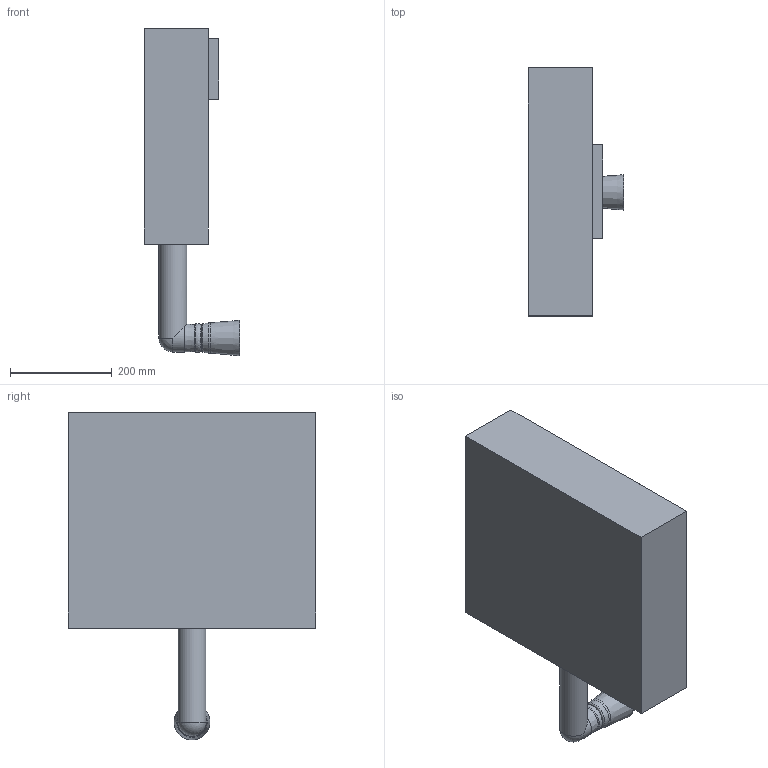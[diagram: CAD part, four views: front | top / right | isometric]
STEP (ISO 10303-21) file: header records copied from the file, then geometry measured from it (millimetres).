
FILE_DESCRIPTION(/* description */ (''),/* implementation_level */ '2;1');
FILE_NAME(/* name */ 'C:\DOLPHIN_TEST\Standard Products\Manufacturing and Technical Specifications\BIM Models\DBM5510.stp',/* time_stamp */ '2022-03-31T14:57:03+01:00',/* author */ ('Andy.house'),/* organization */ (''),/* preprocessor_version */ 'ST-DEVELOPER v16.13',/* originating_system */ 'Autodesk Inventor 2018',/* authorisation */ '');
FILE_SCHEMA (('AUTOMOTIVE_DESIGN { 1 0 10303 214 3 1 1 }'));
Length unit declared in the file: millimetre
Products named in the file (1): DBM5510
Bounding box: 187.09 x 488 x 645.01 mm (x, y, z)
Volume: 27376506 mm3; surface area: 717894.7 mm2
Topology: 1 solids, 1 shells, 29 faces, 67 edges, 41 vertices
Faces by surface type: plane 17, bspline 6, cone 3, cylinder 2, sphere 1
Full cylindrical faces by diameter (mm): 55 x1
Entity records: 999 total; most frequent: CARTESIAN_POINT 370, DIRECTION 120, ORIENTED_EDGE 116, EDGE_CURVE 58, AXIS2_PLACEMENT_3D 45, VERTEX_POINT 37, EDGE_LOOP 35, LINE 30
